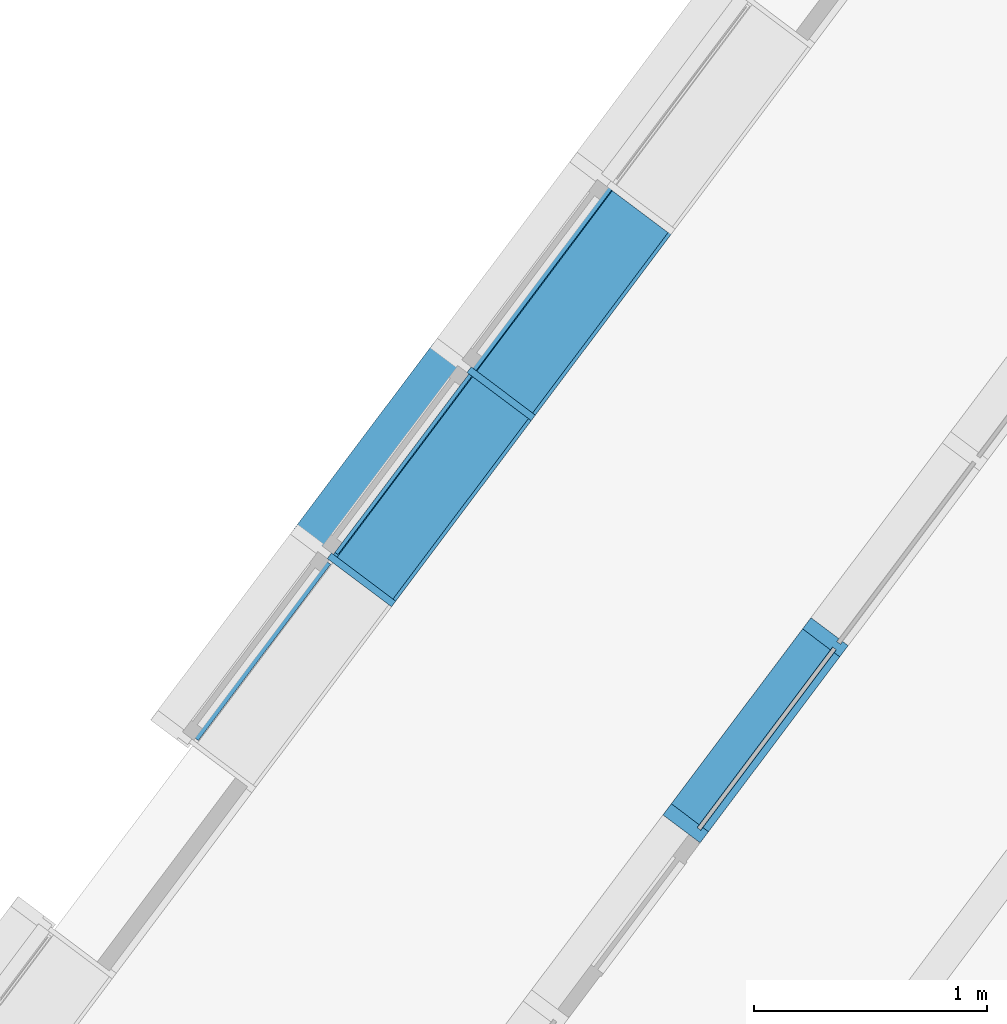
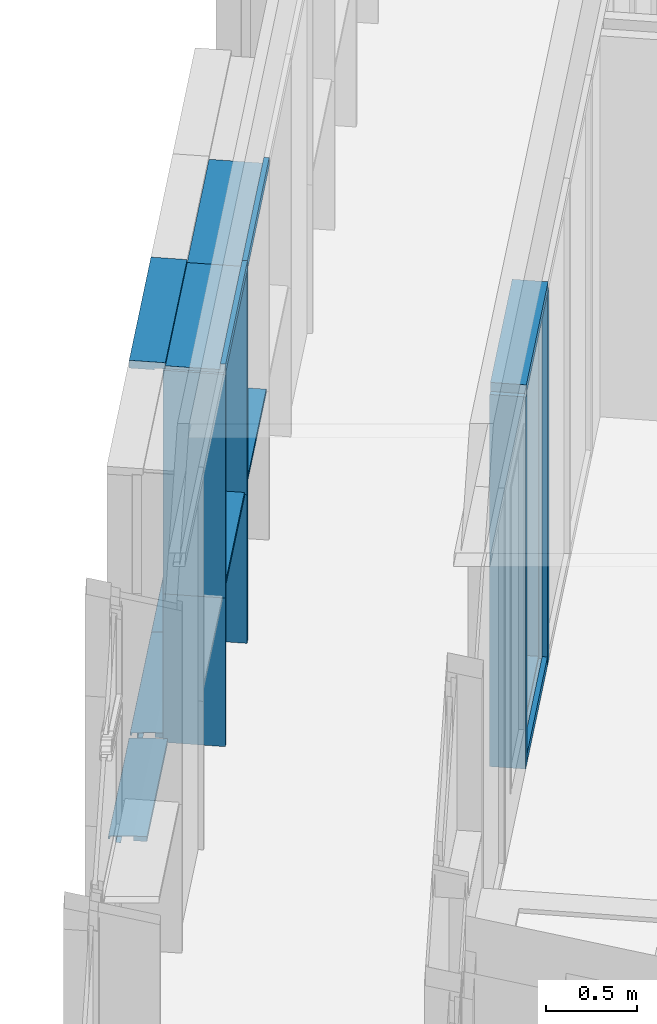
# One storey, part 40 of 243: 16 members, 3 elements without a shape of their own.
"""IFC2X3 building model written with IfcOpenShell, lengths in metres."""

from ifc_helpers import new_model, entity, si_unit, converted_unit, derived_unit, direction, frame, frame_2d, origin, place, context, subcontext, project, spatial, polyline, circle_curve, parameter, trimmed, segment, composite_curve, rectangle, outline, extrude, source, transform, mapped, material, type_object, type_shapes, element, aggregate, save


model = new_model("IFC2X3")

# Units and contexts
model_context = context("Model", 3, precision=1e-05, world=origin(), true_north=direction((6.123031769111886e-17, 1.0)))
body_context = subcontext(model_context, "Body", "Model", "MODEL_VIEW")
ifc_project = project(units=[si_unit("LENGTHUNIT", "METRE"), si_unit("AREAUNIT", "SQUARE_METRE"), si_unit("VOLUMEUNIT", "CUBIC_METRE"), converted_unit("PLANEANGLEUNIT", "DEGREE", entity("IfcRatioMeasure", 0.017453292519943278), si_unit("PLANEANGLEUNIT", "RADIAN"), dimensions=[0, 0, 0, 0, 0, 0, 0]), si_unit("MASSUNIT", "GRAM", prefix="KILO"), derived_unit("MASSDENSITYUNIT", [(si_unit("MASSUNIT", "GRAM", prefix="KILO"), 1), (si_unit("LENGTHUNIT", "METRE"), -3)]), derived_unit("IONCONCENTRATIONUNIT", [(si_unit("MASSUNIT", "GRAM", prefix="KILO"), 1), (si_unit("LENGTHUNIT", "METRE"), -3)]), derived_unit("MOMENTOFINERTIAUNIT", [(si_unit("LENGTHUNIT", "METRE"), 4)]), si_unit("TIMEUNIT", "SECOND"), si_unit("FREQUENCYUNIT", "HERTZ"), si_unit("THERMODYNAMICTEMPERATUREUNIT", "DEGREE_CELSIUS"), derived_unit("THERMALTRANSMITTANCEUNIT", [(si_unit("MASSUNIT", "GRAM", prefix="KILO"), 1), (si_unit("THERMODYNAMICTEMPERATUREUNIT", "KELVIN"), -1), (si_unit("TIMEUNIT", "SECOND"), -3)]), derived_unit("THERMALCONDUCTANCEUNIT", [(si_unit("MASSUNIT", "GRAM", prefix="KILO"), 1), (si_unit("THERMODYNAMICTEMPERATUREUNIT", "KELVIN"), -1), (si_unit("TIMEUNIT", "SECOND"), -3), (si_unit("LENGTHUNIT", "METRE"), 1)]), derived_unit("VOLUMETRICFLOWRATEUNIT", [(si_unit("LENGTHUNIT", "METRE"), 3), (si_unit("TIMEUNIT", "SECOND"), -1)]), derived_unit("MASSFLOWRATEUNIT", [(si_unit("MASSUNIT", "GRAM", prefix="KILO"), 1), (si_unit("TIMEUNIT", "SECOND"), -1)]), derived_unit("ROTATIONALFREQUENCYUNIT", [(si_unit("TIMEUNIT", "SECOND"), -1)]), si_unit("ELECTRICCURRENTUNIT", "AMPERE"), si_unit("ELECTRICVOLTAGEUNIT", "VOLT"), si_unit("POWERUNIT", "WATT"), si_unit("FORCEUNIT", "NEWTON", prefix="KILO"), si_unit("ILLUMINANCEUNIT", "LUX"), si_unit("LUMINOUSFLUXUNIT", "LUMEN"), si_unit("LUMINOUSINTENSITYUNIT", "CANDELA"), derived_unit("USERDEFINED", [(si_unit("MASSUNIT", "GRAM", prefix="KILO"), -1), (si_unit("LENGTHUNIT", "METRE"), -2), (si_unit("TIMEUNIT", "SECOND"), 3), (si_unit("LUMINOUSFLUXUNIT", "LUMEN"), 1)]), derived_unit("USERDEFINED", [(si_unit("MASSUNIT", "GRAM", prefix="KILO"), 1), (si_unit("TIMEUNIT", "SECOND"), -3), (si_unit("LENGTHUNIT", "METRE"), 3), (si_unit("ELECTRICCURRENTUNIT", "AMPERE"), -2)]), derived_unit("SOUNDPOWERUNIT", [(si_unit("MASSUNIT", "GRAM", prefix="KILO"), 1), (si_unit("TIMEUNIT", "SECOND"), -3), (si_unit("LENGTHUNIT", "METRE"), 2)]), derived_unit("SOUNDPRESSUREUNIT", [(si_unit("MASSUNIT", "GRAM", prefix="KILO"), 1), (si_unit("LENGTHUNIT", "METRE"), -1), (si_unit("TIMEUNIT", "SECOND"), -2)]), derived_unit("LINEARVELOCITYUNIT", [(si_unit("LENGTHUNIT", "METRE"), 1), (si_unit("TIMEUNIT", "SECOND"), -1)]), si_unit("PRESSUREUNIT", "PASCAL"), derived_unit("USERDEFINED", [(si_unit("MASSUNIT", "GRAM", prefix="KILO"), 1), (si_unit("LENGTHUNIT", "METRE"), -2), (si_unit("TIMEUNIT", "SECOND"), -2)]), derived_unit("LINEARFORCEUNIT", [(si_unit("MASSUNIT", "GRAM", prefix="KILO"), 1), (si_unit("TIMEUNIT", "SECOND"), -2)]), derived_unit("PLANARFORCEUNIT", [(si_unit("MASSUNIT", "GRAM", prefix="KILO"), 1), (si_unit("LENGTHUNIT", "METRE"), -1), (si_unit("TIMEUNIT", "SECOND"), -2)]), derived_unit("SPECIFICHEATCAPACITYUNIT", [(si_unit("THERMODYNAMICTEMPERATUREUNIT", "KELVIN"), -1), (si_unit("LENGTHUNIT", "METRE"), 2), (si_unit("TIMEUNIT", "SECOND"), -2)]), derived_unit("HEATINGVALUEUNIT", [(si_unit("LENGTHUNIT", "METRE"), 2), (si_unit("TIMEUNIT", "SECOND"), -2)]), derived_unit("VAPORPERMEABILITYUNIT", [(si_unit("LENGTHUNIT", "METRE"), -1), (si_unit("TIMEUNIT", "SECOND"), 1)]), derived_unit("DYNAMICVISCOSITYUNIT", [(si_unit("MASSUNIT", "GRAM", prefix="KILO"), 1), (si_unit("TIMEUNIT", "SECOND"), -1), (si_unit("LENGTHUNIT", "METRE"), -1)]), derived_unit("THERMALEXPANSIONCOEFFICIENTUNIT", [(si_unit("THERMODYNAMICTEMPERATUREUNIT", "KELVIN"), -1)]), derived_unit("MODULUSOFELASTICITYUNIT", [(si_unit("MASSUNIT", "GRAM", prefix="KILO"), 1), (si_unit("LENGTHUNIT", "METRE"), -1), (si_unit("TIMEUNIT", "SECOND"), -2)]), derived_unit("ISOTHERMALMOISTURECAPACITYUNIT", [(si_unit("LENGTHUNIT", "METRE"), 3), (si_unit("MASSUNIT", "GRAM", prefix="KILO"), -1)]), derived_unit("MOISTUREDIFFUSIVITYUNIT", [(si_unit("TIMEUNIT", "SECOND"), -1), (si_unit("LENGTHUNIT", "METRE"), 2)])], contexts=[model_context])

# Site, building, storey
site_placement = place(None, frame((0.0, 0.0, 235.0), z_axis=(0.0, 0.0, 1.0), x_axis=(-0.7996477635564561, 0.6004693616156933, 0.0)))
site = spatial("IfcSite", under=ifc_project, at=site_placement, Name="Default", CompositionType="ELEMENT")
building_placement = place(site_placement, origin())
building = spatial("IfcBuilding", under=site, at=building_placement, CompositionType="ELEMENT")
storey_placement = place(building_placement, origin())
storey = spatial("IfcBuildingStorey", under=building, at=storey_placement, Name="P0- Escola", CompositionType="ELEMENT", Elevation=0.0)

# Curtain wall, members
curtain_wall_type_1 = type_object("IfcCurtainWallType", Name="Muro cortina:MC- INT- a1", PredefinedType="NOTDEFINED")
curtain_wall_1_placement = place(storey_placement, origin())
curtain_wall_1 = element("IfcCurtainWall", 1, at=curtain_wall_1_placement, inside=storey, type_object=curtain_wall_type_1, Name="Muro cortina:MC- INT- a1", ObjectType="Muro cortina:MC- INT- a1")
ifc_material_1 = material(Name="_Fusta massisa- T1")
member_type_1 = type_object("IfcMemberType", Name="Montante rectangular:MC- Fusta- 20x6 cm- Neutre", PredefinedType="MULLION", material=ifc_material_1)
shared_shape_1 = source(origin(), body_context, "Body", "SweptSolid", [
    extrude(rectangle(XDim=0.2, YDim=0.060000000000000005, at=frame_2d((-4.85722573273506e-17, -3.469446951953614e-18), x_axis=(1.0, 0.0))), frame((-0.03, -0.060000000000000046, -1.0), z_axis=(0.0, 0.0, 1.0), x_axis=(0.0, -1.0, 0.0)), (0.0, 0.0, 1.0), 0.9999999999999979),
])
type_shapes(member_type_1, [shared_shape_1])
member_1_placement = place(curtain_wall_1_placement, frame((60.02014768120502, -27.41518997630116, 2.565), z_axis=(0.0, -1.0, 0.0), x_axis=(0.0, 0.0, 1.0)))
member_1 = element("IfcMember", 2, at=member_1_placement, type_object=member_type_1, material=ifc_material_1, Name="Montante rectangular:MC- Fusta- 20x6 cm- Neutre", ObjectType="Montante rectangular:MC- Fusta- 20x6 cm- Neutre", context=body_context, shape_type="MappedRepresentation", body=[
    mapped(shared_shape_1, transform((0.0, 0.0, 0.0), scale=1.0)),
])
member_type_2 = type_object("IfcMemberType", Name="Montante rectangular:MC- Fusta- 20x6 cm- Dreta", PredefinedType="MULLION", material=ifc_material_1)
shared_shape_2 = source(origin(), body_context, "Body", "SweptSolid", [
    extrude(outline(polyline([(-0.07000000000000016, -0.041249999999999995), (0.13000000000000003, -0.041249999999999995), (0.13000000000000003, 0.01875), (-0.019999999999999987, 0.01875), (-0.019999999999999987, 0.00375), (-0.04000000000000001, 0.00375), (-0.03999999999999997, 0.01875), (-0.06999999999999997, 0.01875), (-0.07000000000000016, -0.041249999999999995)])), frame((0.011250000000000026, -0.02999999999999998, -2.5050000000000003), z_axis=(0.0, 0.0, 1.0), x_axis=(0.0, -1.0, 0.0)), (0.0, 0.0, 1.0), 2.5050000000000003),
])
type_shapes(member_type_2, [shared_shape_2])
member_2_placement = place(curtain_wall_1_placement, frame((60.02014768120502, -26.415189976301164, 0.0), z_axis=(0.0, 0.0, -1.0), x_axis=(0.0, -1.0, 0.0)))
member_2 = element("IfcMember", 3, at=member_2_placement, type_object=member_type_2, material=ifc_material_1, Name="Montante rectangular:MC- Fusta- 20x6 cm- Dreta", ObjectType="Montante rectangular:MC- Fusta- 20x6 cm- Dreta", context=body_context, shape_type="MappedRepresentation", body=[
    mapped(shared_shape_2, transform((0.0, 0.0, 0.0), scale=1.0)),
])
member_type_3 = type_object("IfcMemberType", Name="Montante rectangular:MC- Fusta- 20x6 cm- Centre", PredefinedType="MULLION", material=ifc_material_1)
shared_shape_3 = source(origin(), body_context, "Body", "SweptSolid", [
    extrude(outline(polyline([(-0.06000000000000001, -0.030000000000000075), (-0.03, -0.030000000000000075), (-0.029999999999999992, -0.015000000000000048), (-0.009999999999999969, -0.01499999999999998), (-0.009999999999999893, -0.030000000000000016), (0.14000000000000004, -0.029999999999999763), (0.13999999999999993, 0.030000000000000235), (-0.010000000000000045, 0.02999999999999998), (-0.01000000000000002, 0.014999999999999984), (-0.030000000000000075, 0.014999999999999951), (-0.03000000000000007, 0.029999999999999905), (-0.059999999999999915, 0.029999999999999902), (-0.06000000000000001, -0.030000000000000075)])), frame((0.0, -0.019999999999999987, -2.505000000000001), z_axis=(0.0, 0.0, 1.0), x_axis=(0.0, -1.0, 0.0)), (0.0, 0.0, 1.0), 2.5050000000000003),
])
type_shapes(member_type_3, [shared_shape_3])
member_3_placement = place(curtain_wall_1_placement, frame((60.02014768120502, -27.41518997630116, 0.0), z_axis=(0.0, 0.0, -1.0), x_axis=(0.0, -1.0, 0.0)))
member_3 = element("IfcMember", 4, at=member_3_placement, type_object=member_type_3, material=ifc_material_1, Name="Montante rectangular:MC- Fusta- 20x6 cm- Centre", ObjectType="Montante rectangular:MC- Fusta- 20x6 cm- Centre", context=body_context, shape_type="MappedRepresentation", body=[
    mapped(shared_shape_3, transform((0.0, 0.0, 0.0), scale=1.0)),
])
member_type_4 = type_object("IfcMemberType", Name="Montante rectangular:MC- Fusta- 20x6 cm- Inferior", PredefinedType="MULLION", material=ifc_material_1)
shared_shape_4 = source(origin(), body_context, "Body", "SweptSolid", [
    extrude(outline(polyline([(-0.06999999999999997, -0.018750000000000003), (-0.039999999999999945, -0.018750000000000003), (-0.03999999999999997, -0.003750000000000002), (-0.019999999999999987, -0.0037500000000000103), (-0.019999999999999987, -0.018750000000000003), (0.13000000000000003, -0.018750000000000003), (0.13000000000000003, 0.041249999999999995), (-0.07000000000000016, 0.041249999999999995), (-0.06999999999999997, -0.018750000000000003)])), frame((-0.041249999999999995, -0.02999999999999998, -0.9399999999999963), z_axis=(0.0, 0.0, 1.0), x_axis=(0.0, -1.0, 0.0)), (0.0, 0.0, 1.0), 0.9399999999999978),
])
type_shapes(member_type_4, [shared_shape_4])
member_4_placement = place(curtain_wall_1_placement, frame((60.02014768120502, -26.445189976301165, 0.0), z_axis=(0.0, 1.0, 0.0), x_axis=(0.0, 0.0, -1.0)))
member_4 = element("IfcMember", 5, at=member_4_placement, type_object=member_type_4, material=ifc_material_1, Name="Montante rectangular:MC- Fusta- 20x6 cm- Inferior", ObjectType="Montante rectangular:MC- Fusta- 20x6 cm- Inferior", context=body_context, shape_type="MappedRepresentation", body=[
    mapped(shared_shape_4, transform((0.0, 0.0, 0.0), scale=1.0)),
])
aggregate(curtain_wall_1, [member_1, member_3, member_2, member_4])

curtain_wall_type_2 = type_object("IfcCurtainWallType", Name="Muro cortina:MC- INT- k2", PredefinedType="NOTDEFINED")
curtain_wall_2_placement = place(storey_placement, origin())
curtain_wall_2 = element("IfcCurtainWall", 6, at=curtain_wall_2_placement, inside=storey, type_object=curtain_wall_type_2, Name="Muro cortina:MC- INT- k2", ObjectType="Muro cortina:MC- INT- k2")
member_type_5 = type_object("IfcMemberType", Name="Montante rectangular:MC- Fusta- 35x3 cm- Centre", PredefinedType="MULLION", material=ifc_material_1)
shared_shape_5 = source(origin(), body_context, "Body", "SweptSolid", [
    extrude(rectangle(XDim=0.3450000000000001, YDim=0.030000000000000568, at=frame_2d((0.0, -1.3964523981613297e-16), x_axis=(1.0, 0.0))), frame((0.0, -0.07750000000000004, -1.0), z_axis=(0.0, 0.0, 1.0), x_axis=(0.0, -1.0, 0.0)), (0.0, 0.0, 1.0), 1.0),
])
type_shapes(member_type_5, [shared_shape_5])
member_5_placement = place(curtain_wall_2_placement, frame((61.74514768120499, -26.4151917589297, 0.0), z_axis=(0.0, 0.0, -1.0), x_axis=(0.0, -1.0, 0.0)))
member_5 = element("IfcMember", 7, at=member_5_placement, type_object=member_type_5, material=ifc_material_1, Name="Montante rectangular:MC- Fusta- 35x3 cm- Centre", ObjectType="Montante rectangular:MC- Fusta- 35x3 cm- Centre", context=body_context, shape_type="MappedRepresentation", body=[
    mapped(shared_shape_5, transform((0.0, 0.0, 0.0), scale=1.0)),
])
member_6_placement = place(curtain_wall_2_placement, frame((61.74514768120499, -27.415191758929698, 0.0), z_axis=(0.0, 0.0, -1.0), x_axis=(0.0, -1.0, 0.0)))
member_6 = element("IfcMember", 8, at=member_6_placement, type_object=member_type_5, material=ifc_material_1, Name="Montante rectangular:MC- Fusta- 35x3 cm- Centre", ObjectType="Montante rectangular:MC- Fusta- 35x3 cm- Centre", context=body_context, shape_type="MappedRepresentation", body=[
    mapped(shared_shape_5, transform((0.0, 0.0, 0.0), scale=1.0)),
])
member_type_6 = type_object("IfcMemberType", Name="Montante rectangular:MC- Fusta- 35x3 cm- Pati aules- Remat superior", PredefinedType="MULLION", material=ifc_material_1)
shared_shape_6 = source(origin(), body_context, "Body", "SweptSolid", [
    extrude(outline(polyline([(-0.12166666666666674, -0.02666666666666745), (0.21333333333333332, -0.02666666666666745), (0.2133333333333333, -0.006666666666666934), (-0.09166666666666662, -0.006666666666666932), (-0.09166666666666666, 0.03333333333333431), (-0.12166666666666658, 0.03333333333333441), (-0.12166666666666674, -0.02666666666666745)])), frame((-0.033333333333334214, -0.026666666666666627, -1.0), z_axis=(0.0, 0.0, 1.0), x_axis=(0.0, -1.0, 0.0)), (0.0, 0.0, 1.0), 0.9999999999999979),
])
type_shapes(member_type_6, [shared_shape_6])
member_7_placement = place(curtain_wall_2_placement, frame((61.74514768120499, -27.415191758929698, 2.565), z_axis=(0.0, -1.0, 0.0), x_axis=(0.0, 0.0, 1.0)))
member_7 = element("IfcMember", 9, at=member_7_placement, type_object=member_type_6, material=ifc_material_1, Name="Montante rectangular:MC- Fusta- 35x3 cm- Pati aules- Remat superior", ObjectType="Montante rectangular:MC- Fusta- 35x3 cm- Pati aules- Remat superior", context=body_context, shape_type="MappedRepresentation", body=[
    mapped(shared_shape_6, transform((0.0, 0.0, 0.0), scale=1.0)),
])
member_8_placement = place(curtain_wall_2_placement, frame((61.74514768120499, -28.415191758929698, 2.565), z_axis=(0.0, -1.0, 0.0), x_axis=(0.0, 0.0, 1.0)))
member_8 = element("IfcMember", 10, at=member_8_placement, type_object=member_type_6, material=ifc_material_1, Name="Montante rectangular:MC- Fusta- 35x3 cm- Pati aules- Remat superior", ObjectType="Montante rectangular:MC- Fusta- 35x3 cm- Pati aules- Remat superior", context=body_context, shape_type="MappedRepresentation", body=[
    mapped(shared_shape_6, transform((0.0, 0.0, 0.0), scale=1.0)),
])
member_type_7 = type_object("IfcMemberType", Name="Montante rectangular:MC- Fusta- 35x3 cm- Pati aules- Prestatge", PredefinedType="MULLION", material=ifc_material_1)
shared_shape_7 = source(origin(), body_context, "Body", "SweptSolid", [
    extrude(rectangle(XDim=0.30000000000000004, YDim=0.03000000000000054, at=frame_2d((0.0, -1.231653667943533e-16), x_axis=(1.0, 0.0))), frame((0.0, -0.07000000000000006, -0.9699999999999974), z_axis=(0.0, 0.0, 1.0), x_axis=(0.0, -1.0, 0.0)), (0.0, 0.0, 1.0), 0.969999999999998),
])
type_shapes(member_type_7, [shared_shape_7])
member_9_placement = place(curtain_wall_2_placement, frame((61.74514768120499, -27.400191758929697, 1.0), z_axis=(0.0, -1.0, 0.0), x_axis=(0.0, 0.0, 1.0)))
member_9 = element("IfcMember", 11, at=member_9_placement, type_object=member_type_7, material=ifc_material_1, Name="Montante rectangular:MC- Fusta- 35x3 cm- Pati aules- Prestatge", ObjectType="Montante rectangular:MC- Fusta- 35x3 cm- Pati aules- Prestatge", context=body_context, shape_type="MappedRepresentation", body=[
    mapped(shared_shape_7, transform((0.0, 0.0, 0.0), scale=1.0)),
])
member_10_placement = place(curtain_wall_2_placement, frame((61.74514768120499, -28.400191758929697, 1.0), z_axis=(0.0, -1.0, 0.0), x_axis=(0.0, 0.0, 1.0)))
member_10 = element("IfcMember", 12, at=member_10_placement, type_object=member_type_7, material=ifc_material_1, Name="Montante rectangular:MC- Fusta- 35x3 cm- Pati aules- Prestatge", ObjectType="Montante rectangular:MC- Fusta- 35x3 cm- Pati aules- Prestatge", context=body_context, shape_type="MappedRepresentation", body=[
    mapped(shared_shape_7, transform((0.0, 0.0, 0.0), scale=1.0)),
])
member_type_8 = type_object("IfcMemberType", Name="Montante rectangular:MC- Fusta- 35x3 cm- Centre", PredefinedType="MULLION", material=ifc_material_1)
shared_shape_8 = source(origin(), body_context, "Body", "SweptSolid", [
    extrude(rectangle(XDim=0.3450000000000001, YDim=0.030000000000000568, at=frame_2d((0.0, -1.3964523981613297e-16), x_axis=(1.0, 0.0))), frame((0.0, -0.07750000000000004, -1.504999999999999), z_axis=(0.0, 0.0, 1.0), x_axis=(0.0, -1.0, 0.0)), (0.0, 0.0, 1.0), 1.504999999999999),
])
type_shapes(member_type_8, [shared_shape_8])
member_11_placement = place(curtain_wall_2_placement, frame((61.74514768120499, -26.4151917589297, 1.0), z_axis=(0.0, 0.0, -1.0), x_axis=(0.0, -1.0, 0.0)))
member_11 = element("IfcMember", 13, at=member_11_placement, type_object=member_type_8, material=ifc_material_1, Name="Montante rectangular:MC- Fusta- 35x3 cm- Centre", ObjectType="Montante rectangular:MC- Fusta- 35x3 cm- Centre", context=body_context, shape_type="MappedRepresentation", body=[
    mapped(shared_shape_8, transform((0.0, 0.0, 0.0), scale=1.0)),
])
member_12_placement = place(curtain_wall_2_placement, frame((61.74514768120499, -27.415191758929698, 1.0), z_axis=(0.0, 0.0, -1.0), x_axis=(0.0, -1.0, 0.0)))
member_12 = element("IfcMember", 14, at=member_12_placement, type_object=member_type_8, material=ifc_material_1, Name="Montante rectangular:MC- Fusta- 35x3 cm- Centre", ObjectType="Montante rectangular:MC- Fusta- 35x3 cm- Centre", context=body_context, shape_type="MappedRepresentation", body=[
    mapped(shared_shape_8, transform((0.0, 0.0, 0.0), scale=1.0)),
])
aggregate(curtain_wall_2, [member_5, member_7, member_6, member_8, member_9, member_10, member_11, member_12])

curtain_wall_type_3 = type_object("IfcCurtainWallType", Name="Muro cortina:MC- EXT- MC5", PredefinedType="NOTDEFINED")
curtain_wall_3_placement = place(storey_placement, origin())
curtain_wall_3 = element("IfcCurtainWall", 15, at=curtain_wall_3_placement, inside=storey, type_object=curtain_wall_type_3, Name="Muro cortina:MC- EXT- MC5", ObjectType="Muro cortina:MC- EXT- MC5")
ifc_material_2 = material(Name="_Alumini- T1- Perfil")
member_type_9 = type_object("IfcMemberType", Name="Montante rectangular:MC- Alu- 140x52,5 cm- Fa patis- inferior", PredefinedType="MULLION", material=ifc_material_2)
shared_shape_9 = source(origin(), body_context, "Body", "SweptSolid", [
    extrude(outline(composite_curve([segment(polyline([(-0.144167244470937, -0.02586710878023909), (-0.12786724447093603, -0.025867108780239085)]), True, "CONTINUOUS"), segment(polyline([(-0.12786724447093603, -0.025867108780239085), (-0.12786724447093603, -0.02316710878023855)]), True, "CONTINUOUS"), segment(polyline([(-0.12786724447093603, -0.02316710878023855), (-0.0678672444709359, -0.02316710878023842)]), True, "CONTINUOUS"), segment(polyline([(-0.0678672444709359, -0.02316710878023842), (0.07031215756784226, -0.010722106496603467)]), True, "CONTINUOUS"), segment(trimmed(circle_curve(frame_2d((0.07013275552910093, -0.008730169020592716), x_axis=(0.0897010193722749, -0.9959687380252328)), 0.0019999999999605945), [parameter(0.0)], [parameter(84.8535928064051)], True, "PARAMETER"), True, "CONTINUOUS"), segment(polyline([(0.07213275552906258, -0.00873016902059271), (0.07213275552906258, 0.0062663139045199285)]), True, "CONTINUOUS"), segment(trimmed(circle_curve(frame_2d((0.070132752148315, 0.006266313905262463), x_axis=(1.0, 0.0)), 0.002000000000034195), [parameter(0.0)], [parameter(90.00000002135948)], True, "PARAMETER"), True, "CONTINUOUS"), segment(polyline([(0.070132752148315, 0.00826631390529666), (0.06213275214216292, 0.008266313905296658)]), True, "CONTINUOUS"), segment(polyline([(0.06213275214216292, 0.008266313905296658), (0.06213275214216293, 0.006266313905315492)]), True, "CONTINUOUS"), segment(polyline([(0.06213275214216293, 0.006266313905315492), (0.06963275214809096, 0.006266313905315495)]), True, "CONTINUOUS"), segment(trimmed(circle_curve(frame_2d((0.06963275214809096, 0.005766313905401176), x_axis=(0.0, 1.0)), 0.0004999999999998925), [parameter(269.99999999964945)], [parameter(0.0)], True, "PARAMETER"), False, "CONTINUOUS"), segment(polyline([(0.07013275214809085, 0.0057663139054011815), (0.07013275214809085, -0.008730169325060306)]), True, "CONTINUOUS"), segment(polyline([(0.07013275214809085, -0.008730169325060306), (0.03213275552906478, -0.012152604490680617)]), True, "CONTINUOUS"), segment(polyline([(0.03213275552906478, -0.012152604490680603), (0.03213275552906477, 0.02913289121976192)]), True, "CONTINUOUS"), segment(polyline([(0.03213275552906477, 0.02913289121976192), (0.0021327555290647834, 0.02913289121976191)]), True, "CONTINUOUS"), segment(polyline([(0.0021327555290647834, 0.02913289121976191), (0.0021327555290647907, 0.027132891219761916)]), True, "CONTINUOUS"), segment(polyline([(0.0021327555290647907, 0.027132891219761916), (0.03013275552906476, 0.027132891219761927)]), True, "CONTINUOUS"), segment(polyline([(0.03013275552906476, 0.02713289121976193), (0.03013275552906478, -0.012332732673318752)]), True, "CONTINUOUS"), segment(polyline([(0.03013275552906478, -0.012332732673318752), (-0.06786724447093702, -0.021159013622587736)]), True, "CONTINUOUS"), segment(polyline([(-0.06786724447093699, -0.021159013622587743), (-0.067867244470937, 0.0091328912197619)]), True, "CONTINUOUS"), segment(polyline([(-0.06786724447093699, 0.0091328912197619), (-0.14416724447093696, 0.009132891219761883)]), True, "CONTINUOUS"), segment(polyline([(-0.14416724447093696, 0.009132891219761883), (-0.144167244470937, -0.02586710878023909)]), True, "CONTINUOUS")], self_intersect=False)), frame((-0.029132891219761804, -0.06786724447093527, -0.9474999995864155), z_axis=(0.0, 0.0, 1.0), x_axis=(0.0, -1.0, 0.0)), (0.0, 0.0, 1.0), 0.9474999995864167),
])
type_shapes(member_type_9, [shared_shape_9])
member_13_placement = place(curtain_wall_3_placement, frame((62.04514768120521, -25.441441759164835, -0.02), z_axis=(0.0, 1.0, 0.0), x_axis=(0.0, 0.0, -1.0)))
member_13 = element("IfcMember", 16, at=member_13_placement, type_object=member_type_9, material=ifc_material_2, Name="Montante rectangular:MC- Alu- 140x52,5 cm- Fa patis- inferior", ObjectType="Montante rectangular:MC- Alu- 140x52,5 cm- Fa patis- inferior", context=body_context, shape_type="MappedRepresentation", body=[
    mapped(shared_shape_9, transform((0.0, 0.0, 0.0), scale=1.0)),
])
member_type_10 = type_object("IfcMemberType", Name="Montante rectangular:MC- Alu- 140x52,5 cm- Fa patis- inferior", PredefinedType="MULLION", material=ifc_material_2)
shared_shape_10 = source(origin(), body_context, "Body", "SweptSolid", [
    extrude(outline(composite_curve([segment(polyline([(-0.144167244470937, -0.025867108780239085), (-0.12786724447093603, -0.02586710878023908)]), True, "CONTINUOUS"), segment(polyline([(-0.12786724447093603, -0.02586710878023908), (-0.12786724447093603, -0.023167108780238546)]), True, "CONTINUOUS"), segment(polyline([(-0.12786724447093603, -0.023167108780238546), (-0.0678672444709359, -0.023167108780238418)]), True, "CONTINUOUS"), segment(polyline([(-0.0678672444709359, -0.023167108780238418), (0.07031215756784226, -0.010722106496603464)]), True, "CONTINUOUS"), segment(trimmed(circle_curve(frame_2d((0.07013275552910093, -0.008730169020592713), x_axis=(0.0897010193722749, -0.9959687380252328)), 0.0019999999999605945), [parameter(0.0)], [parameter(84.8535928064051)], True, "PARAMETER"), True, "CONTINUOUS"), segment(polyline([(0.07213275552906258, -0.008730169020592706), (0.07213275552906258, 0.006266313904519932)]), True, "CONTINUOUS"), segment(trimmed(circle_curve(frame_2d((0.07013275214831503, 0.006266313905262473), x_axis=(1.0, 0.0)), 0.0020000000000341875), [parameter(0.0)], [parameter(90.00000002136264)], True, "PARAMETER"), True, "CONTINUOUS"), segment(polyline([(0.070132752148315, 0.008266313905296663), (0.06213275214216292, 0.008266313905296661)]), True, "CONTINUOUS"), segment(polyline([(0.06213275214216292, 0.008266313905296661), (0.06213275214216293, 0.006266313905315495)]), True, "CONTINUOUS"), segment(polyline([(0.06213275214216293, 0.006266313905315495), (0.06963275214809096, 0.006266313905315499)]), True, "CONTINUOUS"), segment(trimmed(circle_curve(frame_2d((0.06963275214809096, 0.005766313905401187), x_axis=(0.0, 1.0)), 0.0004999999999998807), [parameter(269.9999999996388)], [parameter(0.0)], True, "PARAMETER"), False, "CONTINUOUS"), segment(polyline([(0.07013275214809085, 0.005766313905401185), (0.07013275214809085, -0.008730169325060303)]), True, "CONTINUOUS"), segment(polyline([(0.07013275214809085, -0.008730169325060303), (0.03213275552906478, -0.012152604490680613)]), True, "CONTINUOUS"), segment(polyline([(0.03213275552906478, -0.0121526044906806), (0.03213275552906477, 0.029132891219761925)]), True, "CONTINUOUS"), segment(polyline([(0.03213275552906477, 0.029132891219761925), (0.0021327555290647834, 0.029132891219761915)]), True, "CONTINUOUS"), segment(polyline([(0.0021327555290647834, 0.029132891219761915), (0.0021327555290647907, 0.02713289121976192)]), True, "CONTINUOUS"), segment(polyline([(0.0021327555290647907, 0.02713289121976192), (0.03013275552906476, 0.02713289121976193)]), True, "CONTINUOUS"), segment(polyline([(0.03013275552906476, 0.027132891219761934), (0.03013275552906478, -0.012332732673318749)]), True, "CONTINUOUS"), segment(polyline([(0.03013275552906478, -0.012332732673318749), (-0.06786724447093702, -0.021159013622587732)]), True, "CONTINUOUS"), segment(polyline([(-0.06786724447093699, -0.02115901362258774), (-0.067867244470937, 0.009132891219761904)]), True, "CONTINUOUS"), segment(polyline([(-0.06786724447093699, 0.009132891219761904), (-0.14416724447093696, 0.009132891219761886)]), True, "CONTINUOUS"), segment(polyline([(-0.14416724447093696, 0.009132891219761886), (-0.144167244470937, -0.025867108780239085)]), True, "CONTINUOUS")], self_intersect=False)), frame((-0.029132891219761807, -0.06786724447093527, -0.9737499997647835), z_axis=(0.0, 0.0, 1.0), x_axis=(0.0, -1.0, 0.0)), (0.0, 0.0, 1.0), 0.9737499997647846),
])
type_shapes(member_type_10, [shared_shape_10])
member_14_placement = place(curtain_wall_3_placement, frame((62.04514768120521, -26.441441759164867, -0.02), z_axis=(0.0, 1.0, 0.0), x_axis=(0.0, 0.0, -1.0)))
member_14 = element("IfcMember", 17, at=member_14_placement, type_object=member_type_10, material=ifc_material_2, Name="Montante rectangular:MC- Alu- 140x52,5 cm- Fa patis- inferior", ObjectType="Montante rectangular:MC- Alu- 140x52,5 cm- Fa patis- inferior", context=body_context, shape_type="MappedRepresentation", body=[
    mapped(shared_shape_10, transform((0.0, 0.0, 0.0), scale=1.0)),
])
member_type_11 = type_object("IfcMemberType", Name="Montante rectangular:MC- Alu- 140x52,5 cm- Fa patis- Superior", PredefinedType="MULLION", material=ifc_material_2)
shared_shape_11 = source(origin(), body_context, "Body", "SweptSolid", [
    extrude(outline(polyline([(-0.026333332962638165, -0.021249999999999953), (0.11366666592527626, -0.021249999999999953), (0.11366666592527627, 0.031250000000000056), (-0.08733333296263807, 0.03125000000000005), (-0.0873333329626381, -0.010000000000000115), (-0.026333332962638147, -0.010000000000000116), (-0.026333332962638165, -0.021249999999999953)])), frame((-0.031250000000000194, -0.02733333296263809, -1.0), z_axis=(0.0, 0.0, 1.0), x_axis=(0.0, -1.0, 0.0)), (0.0, 0.0, 1.0), 1.0000000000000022),
])
type_shapes(member_type_11, [shared_shape_11])
member_15_placement = place(curtain_wall_3_placement, frame((62.04514768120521, -27.41519175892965, 2.545), z_axis=(0.0, -1.0, 0.0), x_axis=(0.0, 0.0, 1.0)))
member_15 = element("IfcMember", 18, at=member_15_placement, type_object=member_type_11, material=ifc_material_2, Name="Montante rectangular:MC- Alu- 140x52,5 cm- Fa patis- Superior", ObjectType="Montante rectangular:MC- Alu- 140x52,5 cm- Fa patis- Superior", context=body_context, shape_type="MappedRepresentation", body=[
    mapped(shared_shape_11, transform((0.0, 0.0, 0.0), scale=1.0)),
])
member_type_12 = type_object("IfcMemberType", Name="Montante rectangular:MC- Alu- 140x52,5 cm- Fa patis- inferior", PredefinedType="MULLION", material=ifc_material_2)
shared_shape_12 = source(origin(), body_context, "Body", "SweptSolid", [
    extrude(outline(composite_curve([segment(polyline([(-0.144167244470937, -0.02586710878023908), (-0.12786724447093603, -0.025867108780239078)]), True, "CONTINUOUS"), segment(polyline([(-0.12786724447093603, -0.025867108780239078), (-0.12786724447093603, -0.023167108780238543)]), True, "CONTINUOUS"), segment(polyline([(-0.12786724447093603, -0.023167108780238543), (-0.0678672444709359, -0.023167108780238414)]), True, "CONTINUOUS"), segment(polyline([(-0.0678672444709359, -0.023167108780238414), (0.07031215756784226, -0.01072210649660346)]), True, "CONTINUOUS"), segment(trimmed(circle_curve(frame_2d((0.07013275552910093, -0.00873016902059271), x_axis=(0.0897010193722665, -0.9959687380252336)), 0.0019999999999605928), [parameter(0.0)], [parameter(84.85359280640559)], True, "PARAMETER"), True, "CONTINUOUS"), segment(polyline([(0.07213275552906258, -0.008730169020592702), (0.07213275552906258, 0.006266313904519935)]), True, "CONTINUOUS"), segment(trimmed(circle_curve(frame_2d((0.070132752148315, 0.0062663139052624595), x_axis=(1.0, 0.0)), 0.0020000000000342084), [parameter(0.0)], [parameter(90.00000002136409)], True, "PARAMETER"), True, "CONTINUOUS"), segment(polyline([(0.070132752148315, 0.008266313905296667), (0.06213275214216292, 0.008266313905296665)]), True, "CONTINUOUS"), segment(polyline([(0.06213275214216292, 0.008266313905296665), (0.06213275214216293, 0.006266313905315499)]), True, "CONTINUOUS"), segment(polyline([(0.06213275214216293, 0.006266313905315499), (0.06963275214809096, 0.006266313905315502)]), True, "CONTINUOUS"), segment(trimmed(circle_curve(frame_2d((0.06963275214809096, 0.005766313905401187), x_axis=(0.0, 1.0)), 0.000499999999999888), [parameter(269.9999999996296)], [parameter(0.0)], True, "PARAMETER"), False, "CONTINUOUS"), segment(polyline([(0.07013275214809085, 0.005766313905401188), (0.07013275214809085, -0.0087301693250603)]), True, "CONTINUOUS"), segment(polyline([(0.07013275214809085, -0.0087301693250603), (0.03213275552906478, -0.01215260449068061)]), True, "CONTINUOUS"), segment(polyline([(0.03213275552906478, -0.012152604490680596), (0.03213275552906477, 0.02913289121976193)]), True, "CONTINUOUS"), segment(polyline([(0.03213275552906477, 0.02913289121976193), (0.0021327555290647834, 0.029132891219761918)]), True, "CONTINUOUS"), segment(polyline([(0.0021327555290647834, 0.029132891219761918), (0.0021327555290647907, 0.027132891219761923)]), True, "CONTINUOUS"), segment(polyline([(0.0021327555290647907, 0.027132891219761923), (0.03013275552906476, 0.027132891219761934)]), True, "CONTINUOUS"), segment(polyline([(0.03013275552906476, 0.027132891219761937), (0.03013275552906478, -0.012332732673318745)]), True, "CONTINUOUS"), segment(polyline([(0.03013275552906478, -0.012332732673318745), (-0.06786724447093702, -0.02115901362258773)]), True, "CONTINUOUS"), segment(polyline([(-0.06786724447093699, -0.021159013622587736), (-0.067867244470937, 0.009132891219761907)]), True, "CONTINUOUS"), segment(polyline([(-0.06786724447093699, 0.009132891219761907), (-0.14416724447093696, 0.00913289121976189)]), True, "CONTINUOUS"), segment(polyline([(-0.14416724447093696, 0.00913289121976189), (-0.144167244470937, -0.02586710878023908)]), True, "CONTINUOUS")], self_intersect=False)), frame((-0.02913289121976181, -0.06786724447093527, -1.0), z_axis=(0.0, 0.0, 1.0), x_axis=(0.0, -1.0, 0.0)), (0.0, 0.0, 1.0), 0.9999999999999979),
])
type_shapes(member_type_12, [shared_shape_12])
member_16_placement = place(curtain_wall_3_placement, frame((62.04514768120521, -27.41519175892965, -0.02), z_axis=(0.0, 1.0, 0.0), x_axis=(0.0, 0.0, -1.0)))
member_16 = element("IfcMember", 19, at=member_16_placement, type_object=member_type_12, material=ifc_material_2, Name="Montante rectangular:MC- Alu- 140x52,5 cm- Fa patis- inferior", ObjectType="Montante rectangular:MC- Alu- 140x52,5 cm- Fa patis- inferior", context=body_context, shape_type="MappedRepresentation", body=[
    mapped(shared_shape_12, transform((0.0, 0.0, 0.0), scale=1.0)),
])
aggregate(curtain_wall_3, [member_14, member_15, member_16, member_13])

save(model, "model.ifc")
